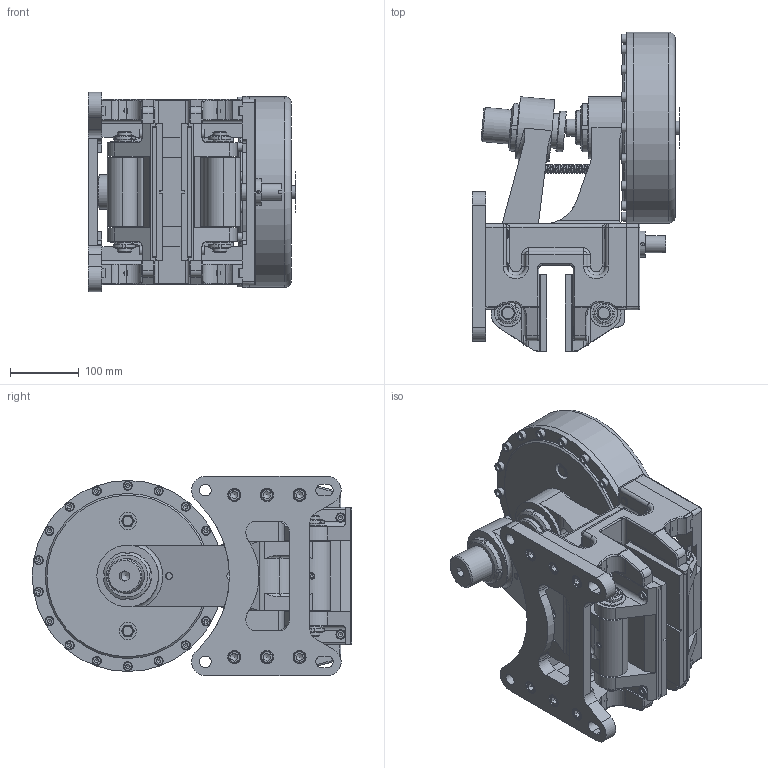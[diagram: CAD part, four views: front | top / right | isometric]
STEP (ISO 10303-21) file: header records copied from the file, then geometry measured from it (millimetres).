
FILE_DESCRIPTION(/* description */ ('','CAx-IF Rec.Pracs.---Representation and Presentation of Product Manufacturing Information (PMI)---4.0---2014-10-13'),/* implementation_level */ '2;1');
FILE_NAME(/* name */ 'X:\INVENTOR\DISEGNI\19_Pinze\STEP x Sito\PNEUM-POSITIVE\19_16_680_04 PPTP680_25,4.stp',/* time_stamp */ '2018-10-30T08:11:38+01:00',/* author */ ('stefano'),/* organization */ (''),/* preprocessor_version */ 'ST-DEVELOPER v17',/* originating_system */ 'Autodesk Inventor 2018',/* authorisation */ '');
FILE_SCHEMA (('AP242_MANAGED_MODEL_BASED_3D_ENGINEERING_MIM_LF { 1 0 10303 442 1 1 4 }'));
Products named in the file (1): 19_16_680_04 PPTP680_25,4_Substitute_2
Bounding box: 302.1 x 465 x 290 mm (x, y, z)
Volume: 12469655 mm3; surface area: 1086686.8 mm2
Topology: 1 solids, 1 shells, 1687 faces, 4668 edges, 3057 vertices
Faces by surface type: plane 855, cylinder 457, torus 188, cone 141, bspline 30, sphere 16
Full cylindrical faces by diameter (mm): 1.8 x2, 3 x1, 5.188 x1, 5.25 x4, 7.4 x1, 7.5 x2, 8 x9, 8.376 x1, 8.5 x8, 8.917 x2, 9 x1, 9.188 x1, 10 x2, 10.106 x5, 10.5 x4, 12 x17, 12.5 x12, 13 x27, 13.5 x8, 14 x1, 16.5 x4, 17 x2, 18 x14, 18.631 x1, 19 x12, 19.5 x1, 20 x12, 22 x6, 25 x9, 28 x1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
Entity records: 65236 total; most frequent: CARTESIAN_POINT 20555, ORIENTED_EDGE 9210, DIRECTION 9079, EDGE_CURVE 4605, AXIS2_PLACEMENT_3D 3436, VERTEX_POINT 3057, LINE 2207, VECTOR 2207
